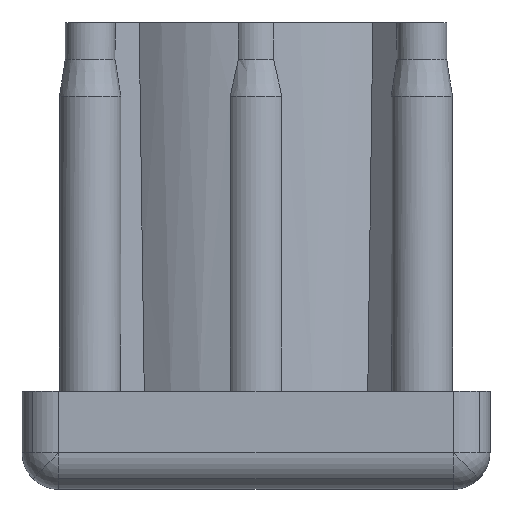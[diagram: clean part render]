
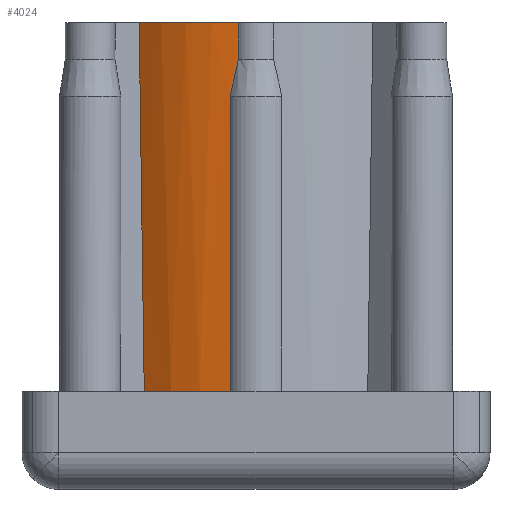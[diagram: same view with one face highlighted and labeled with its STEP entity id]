
A CAD part, front view. The second image highlights one B-rep face of the part: STEP entity #4024.
In plain terms, the highlighted cylindrical face has radius 15 mm (diameter 30 mm), a partial arc.
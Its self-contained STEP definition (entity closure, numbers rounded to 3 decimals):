
#54 = DIRECTION ( 'NONE',  ( 1., 0., 0. ) ) ;
#215 = EDGE_CURVE ( 'NONE', #614, #444, #1198, .T. ) ;
#401 = CARTESIAN_POINT ( 'NONE',  ( -1.632, -14.912, 33.442 ) ) ;
#444 = VERTEX_POINT ( 'NONE', #3037 ) ;
#495 = DIRECTION ( 'NONE',  ( 0.707, -0.707, 0.017 ) ) ;
#512 = ORIENTED_EDGE ( 'NONE', *, *, #1732, .F. ) ;
#614 = VERTEX_POINT ( 'NONE', #952 ) ;
#649 = CARTESIAN_POINT ( 'NONE',  ( -2.103, -14.852, 7.25 ) ) ;
#653 = AXIS2_PLACEMENT_3D ( 'NONE', #3904, #495, #2021 ) ;
#661 = CARTESIAN_POINT ( 'NONE',  ( -1.856, -14.887, 32.442 ) ) ;
#663 = CARTESIAN_POINT ( 'NONE',  ( 0., 0., 37.25 ) ) ;
#686 = VECTOR ( 'NONE', #1931, 1000. ) ;
#829 = VECTOR ( 'NONE', #3863, 1000. ) ;
#918 = DIRECTION ( 'NONE',  ( 0., 0., -1. ) ) ;
#920 = CIRCLE ( 'NONE', #1276, 15. ) ;
#952 = CARTESIAN_POINT ( 'NONE',  ( -2.103, -14.852, 31.25 ) ) ;
#955 = ORIENTED_EDGE ( 'NONE', *, *, #1760, .T. ) ;
#1013 = CYLINDRICAL_SURFACE ( 'NONE', #1039, 15. ) ;
#1039 = AXIS2_PLACEMENT_3D ( 'NONE', #2507, #918, #2195 ) ;
#1198 = B_SPLINE_CURVE_WITH_KNOTS ( 'NONE', 3,
 ( #2282, #661, #401, #3231 ),
 .UNSPECIFIED., .F., .F.,
 ( 4, 4 ),
 ( 0., 1. ),
 .UNSPECIFIED. ) ;
#1220 = VERTEX_POINT ( 'NONE', #1848 ) ;
#1223 = LINE ( 'NONE', #2940, #829 ) ;
#1276 = AXIS2_PLACEMENT_3D ( 'NONE', #663, #3490, #54 ) ;
#1305 = VERTEX_POINT ( 'NONE', #649 ) ;
#1445 = VERTEX_POINT ( 'NONE', #3881 ) ;
#1656 = ORIENTED_EDGE ( 'NONE', *, *, #3478, .T. ) ;
#1679 = EDGE_CURVE ( 'NONE', #444, #3947, #2308, .T. ) ;
#1732 = EDGE_CURVE ( 'NONE', #1445, #3947, #920, .T. ) ;
#1760 = EDGE_CURVE ( 'NONE', #1305, #614, #1223, .T. ) ;
#1848 = CARTESIAN_POINT ( 'NONE',  ( -9.098, -11.926, 7.25 ) ) ;
#1907 = DIRECTION ( 'NONE',  ( 0., 0., 1. ) ) ;
#1931 = DIRECTION ( 'NONE',  ( 0., 0., 1. ) ) ;
#1993 = CIRCLE ( 'NONE', #2887, 15. ) ;
#2021 = DIRECTION ( 'NONE',  ( -0.707, -0.707, -0.002 ) ) ;
#2195 = DIRECTION ( 'NONE',  ( -1., 0., 0. ) ) ;
#2237 = ORIENTED_EDGE ( 'NONE', *, *, #1679, .T. ) ;
#2282 = CARTESIAN_POINT ( 'NONE',  ( -2.103, -14.852, 31.25 ) ) ;
#2289 = FACE_OUTER_BOUND ( 'NONE', #4055, .T. ) ;
#2308 = LINE ( 'NONE', #3477, #686 ) ;
#2507 = CARTESIAN_POINT ( 'NONE',  ( 0., 0., 37.25 ) ) ;
#2826 = EDGE_CURVE ( 'NONE', #1445, #1220, #3760, .T. ) ;
#2887 = AXIS2_PLACEMENT_3D ( 'NONE', #3501, #1907, #3843 ) ;
#2940 = CARTESIAN_POINT ( 'NONE',  ( -2.103, -14.852, 22.25 ) ) ;
#3037 = CARTESIAN_POINT ( 'NONE',  ( -1.432, -14.931, 34.25 ) ) ;
#3106 = ORIENTED_EDGE ( 'NONE', *, *, #215, .T. ) ;
#3231 = CARTESIAN_POINT ( 'NONE',  ( -1.432, -14.931, 34.25 ) ) ;
#3354 = ORIENTED_EDGE ( 'NONE', *, *, #2826, .T. ) ;
#3406 = CARTESIAN_POINT ( 'NONE',  ( -1.432, -14.931, 37.25 ) ) ;
#3477 = CARTESIAN_POINT ( 'NONE',  ( -1.432, -14.931, 35.75 ) ) ;
#3478 = EDGE_CURVE ( 'NONE', #1220, #1305, #1993, .T. ) ;
#3490 = DIRECTION ( 'NONE',  ( 0., 0., 1. ) ) ;
#3501 = CARTESIAN_POINT ( 'NONE',  ( 0., 0., 7.25 ) ) ;
#3760 = CIRCLE ( 'NONE', #653, 48254.36 ) ;
#3843 = DIRECTION ( 'NONE',  ( 1., 0., 0. ) ) ;
#3863 = DIRECTION ( 'NONE',  ( 0., 0., 1. ) ) ;
#3881 = CARTESIAN_POINT ( 'NONE',  ( -9.511, -11.599, 37.25 ) ) ;
#3904 = CARTESIAN_POINT ( 'NONE',  ( 34110.396, 34110.363, 120.499 ) ) ;
#3947 = VERTEX_POINT ( 'NONE', #3406 ) ;
#4024 = ADVANCED_FACE ( 'NONE', ( #2289 ), #1013, .T. ) ;
#4055 = EDGE_LOOP ( 'NONE', ( #512, #3354, #1656, #955, #3106, #2237 ) ) ;
